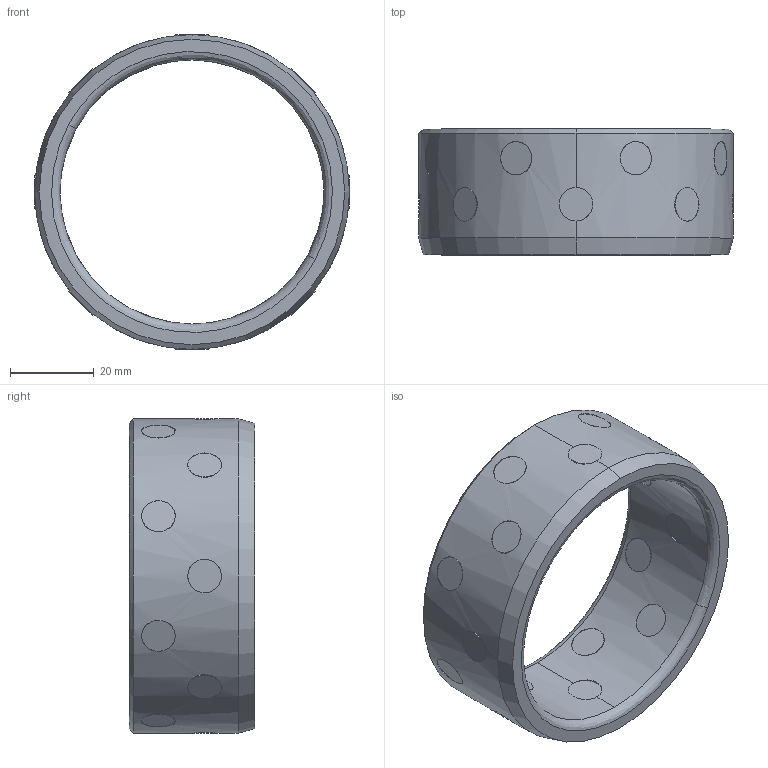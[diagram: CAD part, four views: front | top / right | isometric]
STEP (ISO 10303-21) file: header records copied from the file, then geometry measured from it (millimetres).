
FILE_DESCRIPTION (( 'STEP AP214' ), '1' );
FILE_NAME ('D30.04_633075.step', '2011-12-24T20:23:30', ( 'Dell' ), ( '' ), 'SwSTEP 2.0', 'SolidWorks 2010', '' );
FILE_SCHEMA (( 'AUTOMOTIVE_DESIGN' ));
Length unit declared in the file: millimetre
Products named in the file (5): D30.04_633075; Part15_3_Varsayýlan; Gathered Part15 on CircPattern.2_3_Varsayýlan; 1_3_Varsayýlan; Gathered Part15 on CircPattern.11_3_Varsayýlan
Assembly tree (20 placements, depth 3):
  D30.04_633075
    Part15_3_Varsayýlan  x2
    Gathered Part15 on CircPattern.11_3_Varsayýlan
      Part15_3_Varsayýlan  x8
    1_3_Varsayýlan
    Gathered Part15 on CircPattern.2_3_Varsayýlan
      Part15_3_Varsayýlan  x7
Bounding box: 75 x 30 x 75 mm (x, y, z)
Volume: 38335.5 mm3; surface area: 19981.5 mm2
Topology: 18 solids, 18 shells, 114 faces, 242 edges, 160 vertices
Faces by surface type: cylinder 70, plane 36, bspline 4, cone 4
Entity records: 4242 total; most frequent: CARTESIAN_POINT 2729, ORIENTED_EDGE 292, DIRECTION 236, EDGE_CURVE 146, VERTEX_POINT 96, AXIS2_PLACEMENT_3D 95, EDGE_LOOP 80, B_SPLINE_CURVE_WITH_KNOTS 74
